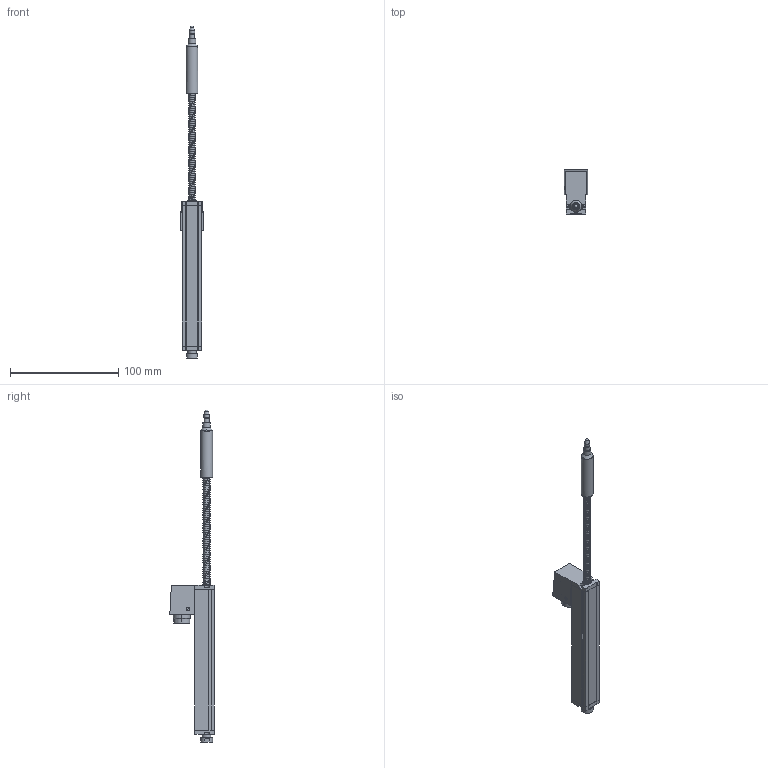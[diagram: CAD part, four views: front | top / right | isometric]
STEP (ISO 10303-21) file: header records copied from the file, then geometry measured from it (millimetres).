
FILE_DESCRIPTION (( 'STEP AP214' ), '1' );
FILE_NAME ('SPR18_S-100.STEP', '2018-02-19T12:46:43', ( '' ), ( '' ), 'SwSTEP 2.0', 'SolidWorks 2017', '' );
FILE_SCHEMA (( 'AUTOMOTIVE_DESIGN' ));
Length unit declared in the file: millimetre
Products named in the file (26): SPR18_S-100; SPR18_Endstop; SPR18_Tastkopf-100; SPR18_100_Schubstange; Feder_SPR18-100; SPR18_S_50_Gehäuse; 09-0115-00-05_1_1_Serie680; SPR18_S_Deckel_Stecker; SPR18_Endkappe_r點k; SPR18_Profil_100; PTFE_d=5,7Buchse; SPR18_100_Schubstange_kompl; spring lock washer 2_din_DIN 6905-2.25-FSt; SPR18_S_Deckel; SPR18_Tastspitze; spring lock washer 2_din
Assembly tree (14 placements, depth 3):
  SPR18_S-100
    Feder_SPR18-100
  SPR18_Endstop
  SPR18_Tastkopf-100
  SPR18_100_Schubstange
  SPR18_S-100
    SPR18_100_Schubstange_kompl
      SPR18_100_Schubstange
      SPR18_Tastkopf-100
      SPR18_Endstop
      SPR18_Tastspitze
      spring lock washer 2_din_DIN 6905-2.25-FSt
    PTFE_d=5,7Buchse
    SPR18_S_50_Gehäuse
      SPR18_Profil_100
      SPR18_Endkappe_r點k
      SPR18_S_Deckel_Stecker
      09-0115-00-05_1_1_Serie680
    Feder_SPR18-100
Bounding box: 22 x 41 x 307 mm (x, y, z)
Volume: 37802.7 mm3; surface area: 36488.4 mm2
Topology: 11 solids, 11 shells, 280 faces, 680 edges, 442 vertices
Faces by surface type: plane 141, cylinder 92, cone 31, bspline 8, torus 7, sphere 1
Full cylindrical faces by diameter (mm): 1 x4, 1.6 x8, 2.2 x2, 2.3 x2, 2.5 x5, 3 x2, 3.2 x1, 4.5 x1, 5 x3, 5.07 x1, 5.2 x1, 5.7 x1, 7 x1, 7.8 x1, 8 x2, 8.3 x1, 11 x2, 19.5 x1
Entity records: 21285 total; most frequent: CARTESIAN_POINT 13234, DIRECTION 1411, ORIENTED_EDGE 1206, EDGE_CURVE 603, AXIS2_PLACEMENT_3D 530, VERTEX_POINT 430, EDGE_LOOP 403, VECTOR 351
